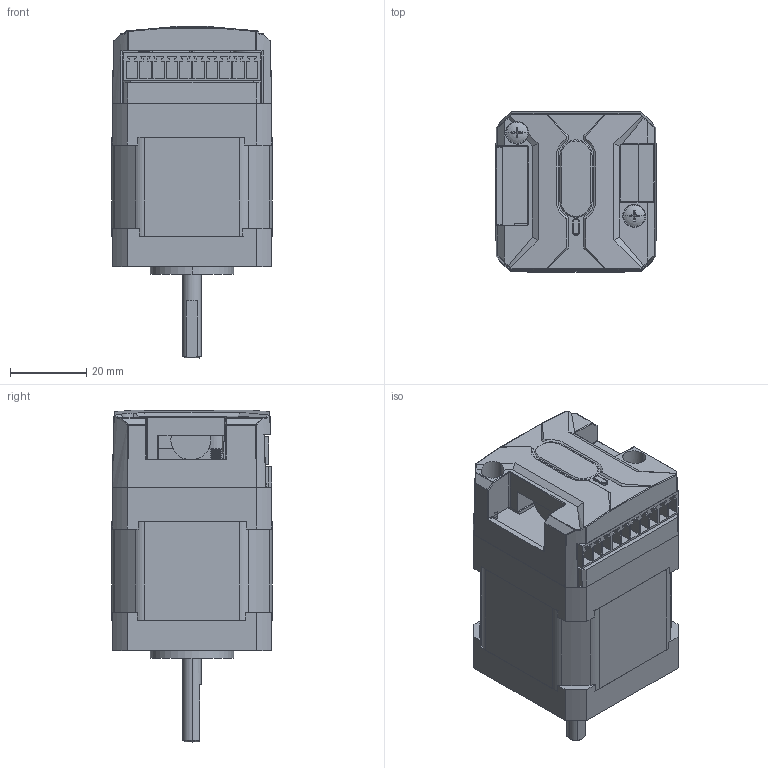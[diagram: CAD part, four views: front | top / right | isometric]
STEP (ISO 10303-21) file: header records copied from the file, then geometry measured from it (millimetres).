
FILE_DESCRIPTION((''),'2;1');
FILE_NAME('ASMICL42_ASM','2021-05-13T09:45:31',('chensf'),(''),'CREO PARAMETRIC BY PTC INC, 2019010','CREO PARAMETRIC BY PTC INC, 2019010','');
FILE_SCHEMA(('CONFIG_CONTROL_DESIGN','GEOMETRIC_VALIDATION_PROPERTIES_MIM'));
Length unit declared in the file: millimetre
Products named in the file (24): ______-3-26080; ____-3-4; __-3; ____-3-6; ______-3-10547; 42DJ_ASM; BREP_3_SOLID_1; BREP_3_SOLID_2; BREP_2; PB_8_QUILT_1; PB_8_QUILT_2; PB_8_QUILT_3; PB_8_QUILT_4; PB_8_QUILT_5; PB_8_QUILT_6; PB_8_QUILT_7; 3PIN-8412; PCB_CL42_ASM; SLZJ1; AL; DZ2; SLZJ2; XX; ASMICL42_ASM
Assembly tree (29 placements, depth 3):
  ASMICL42_ASM
    42DJ_ASM
      ______-3-26080
      ____-3-4
      __-3
      ____-3-6  x4
      ______-3-10547
    PCB_CL42_ASM
      BREP_3_SOLID_1
      BREP_3_SOLID_2
      BREP_2
      PB_8_QUILT_1
      PB_8_QUILT_2
      PB_8_QUILT_3
      PB_8_QUILT_4
      PB_8_QUILT_5
      PB_8_QUILT_6
      PB_8_QUILT_7
      3PIN-8412  x2
    SLZJ1
    AL
    ____-3-6  x2
    DZ2
    SLZJ2
    XX
Bounding box: 42.13 x 42.13 x 87.31 mm (x, y, z)
Volume: 68298.1 mm3; surface area: 50670 mm2
Topology: 19 solids, 20 shells, 2646 faces, 6246 edges, 3673 vertices
Faces by surface type: cone 1628, plane 615, cylinder 283, bspline 74, sphere 32, torus 14
Entity records: 50679 total; most frequent: CARTESIAN_POINT 9327, DIRECTION 6215, ORIENTED_EDGE 6152, EDGE_CURVE 3076, PRESENTATION_STYLE_ASSIGNMENT 3003, STYLED_ITEM 2563, CURVE_STYLE 2542, AXIS2_PLACEMENT_3D 2152
